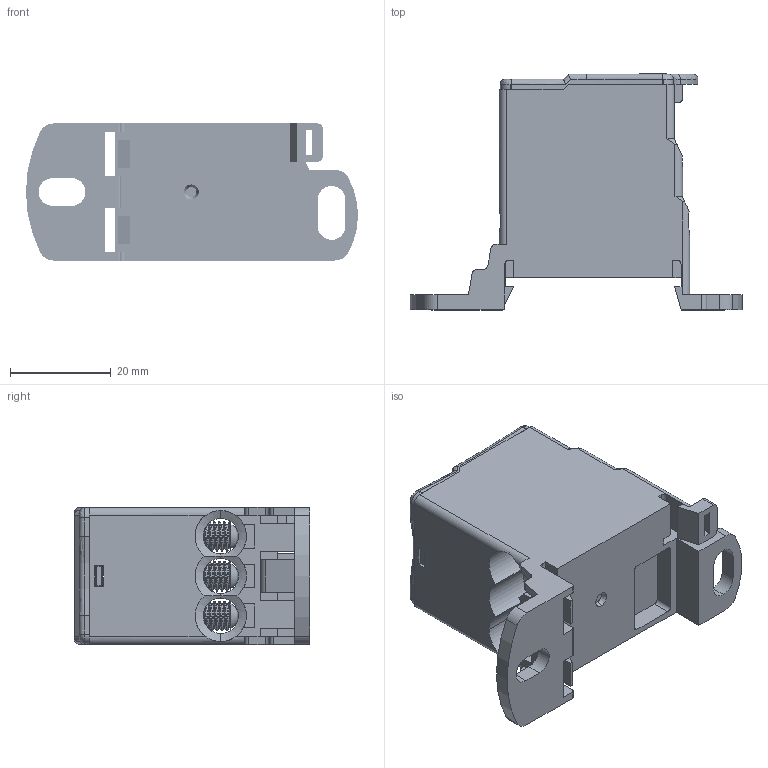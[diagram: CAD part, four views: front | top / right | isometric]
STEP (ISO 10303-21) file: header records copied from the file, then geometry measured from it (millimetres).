
FILE_DESCRIPTION (( 'STEP AP214' ), '1' );
FILE_NAME ('80A..STEP', '2021-01-17T05:45:05', ( '微软用户' ), ( '微软中国' ), 'SwSTEP 2.0', 'SolidWorks 2008', '' );
FILE_SCHEMA (( 'AUTOMOTIVE_DESIGN' ));
Length unit declared in the file: millimetre
Products named in the file (1): 80A.
Bounding box: 65.9 x 46.8 x 27.2 mm (x, y, z)
Volume: 19317.7 mm3; surface area: 23820 mm2
Topology: 10 solids, 10 shells, 1474 faces, 4235 edges, 2784 vertices
Faces by surface type: cylinder 982, plane 273, bspline 156, cone 50, torus 9, sphere 4
Entity records: 153914 total; most frequent: CARTESIAN_POINT 109912, ORIENTED_EDGE 8446, DIRECTION 4926, EDGE_CURVE 4223, VERTEX_POINT 2776, B_SPLINE_CURVE_WITH_KNOTS 2335, AXIS2_PLACEMENT_3D 1753, EDGE_LOOP 1549
